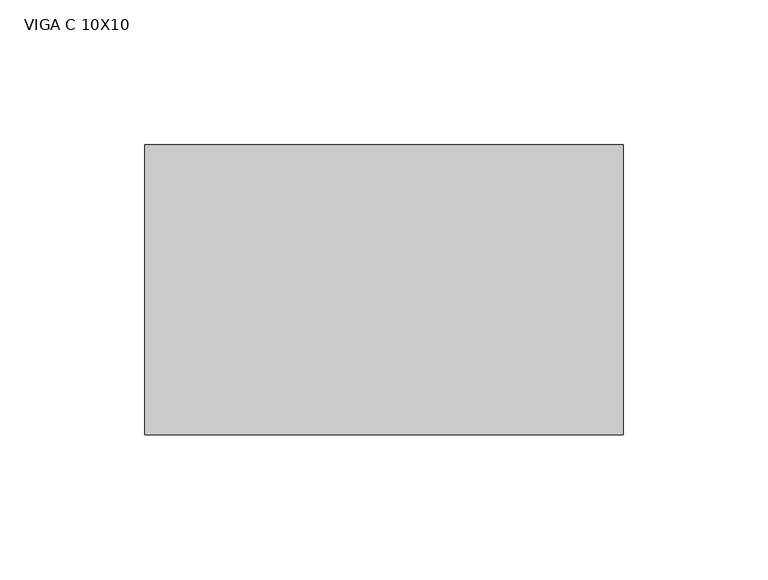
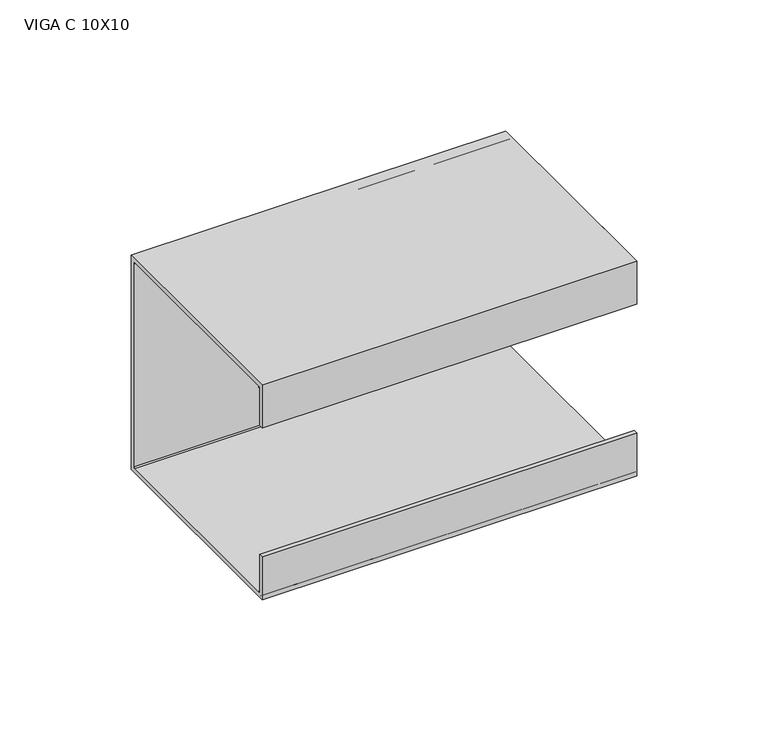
"""IFC4 building model written with IfcOpenShell, lengths in millimetres: beam geometry, VIGA PERFIL C AÇO : VIGA C 10X10."""

from ifc_helpers import new_model, si_unit, point, frame, frame_2d, origin, place, context, project, spatial, polyline, circle_curve, trimmed, segment, composite_curve, outline, extrude, source, transform, mapped, element, save


def viga_c_10x10_df6e70f8(model_context):
    return source(origin(), model_context, "Body", "SweptSolid", [
        extrude(outline(polyline([(9.2, -50.0), (-90.8, -50.0), (-90.8, -30.0), (-88.9, -30.0), (-88.9, -48.1), (7.3, -48.1), (7.3, 48.1), (-88.9, 48.1), (-88.9, 30.0), (-90.8, 30.0), (-90.8, 50.0), (9.2, 50.0), (9.2, -50.0)])), frame((-68.0, 0.0, 0.0), z_axis=(1.0, 0.0, 0.0), x_axis=(0.0, 1.0, 0.0)), (0.0, 0.0, 1.0), 165.0),
        extrude(outline(composite_curve([segment(trimmed(circle_curve(frame_2d((5.4, -46.2)), 3.8), [point((9.2, -46.2))], [point((5.4, -50.0))], False, "CARTESIAN"), True, "CONTINUOUS"), segment(polyline([(5.4, -50.0), (-87.0, -50.0)]), True, "CONTINUOUS"), segment(trimmed(circle_curve(frame_2d((-87.0, -46.2)), 3.8), [point((-87.0, -50.0))], [point((-90.8, -46.2))], False, "CARTESIAN"), True, "CONTINUOUS"), segment(polyline([(-90.8, -46.2), (-90.8, -30.0), (-88.9, -30.0), (-88.9, -46.2)]), True, "CONTINUOUS"), segment(trimmed(circle_curve(frame_2d((-87.0, -46.2)), 1.9), [point((-88.9, -46.2))], [point((-87.0, -48.1))], True, "CARTESIAN"), True, "CONTINUOUS"), segment(polyline([(-87.0, -48.1), (5.4, -48.1)]), True, "CONTINUOUS"), segment(trimmed(circle_curve(frame_2d((5.4, -46.2)), 1.9), [point((5.4, -48.1))], [point((7.3, -46.2))], True, "CARTESIAN"), True, "CONTINUOUS"), segment(polyline([(7.3, -46.2), (7.3, 46.2)]), True, "CONTINUOUS"), segment(trimmed(circle_curve(frame_2d((5.4, 46.2)), 1.9), [point((7.3, 46.2))], [point((5.4, 48.1))], True, "CARTESIAN"), True, "CONTINUOUS"), segment(polyline([(5.4, 48.1), (-87.0, 48.1)]), True, "CONTINUOUS"), segment(trimmed(circle_curve(frame_2d((-87.0, 46.2)), 1.9), [point((-87.0, 48.1))], [point((-88.9, 46.2))], True, "CARTESIAN"), True, "CONTINUOUS"), segment(polyline([(-88.9, 46.2), (-88.9, 30.0), (-90.8, 30.0), (-90.8, 46.2)]), True, "CONTINUOUS"), segment(trimmed(circle_curve(frame_2d((-87.0, 46.2)), 3.8), [point((-90.8, 46.2))], [point((-87.0, 50.0))], False, "CARTESIAN"), True, "CONTINUOUS"), segment(polyline([(-87.0, 50.0), (5.4, 50.0)]), True, "CONTINUOUS"), segment(trimmed(circle_curve(frame_2d((5.4, 46.2)), 3.8), [point((5.4, 50.0))], [point((9.2, 46.2))], False, "CARTESIAN"), True, "CONTINUOUS"), segment(polyline([(9.2, 46.2), (9.2, -46.2)]), True, "CONTINUOUS")], self_intersect=False)), frame((-68.0, 0.0, 0.0), z_axis=(1.0, 0.0, 0.0), x_axis=(0.0, 1.0, 0.0)), (0.0, 0.0, 1.0), 165.0),
    ])


if __name__ == "__main__":
    model = new_model("IFC4")
    model_context = context("Model", 3, world=origin())
    ifc_project = project(units=[si_unit("LENGTHUNIT", "METRE", prefix="MILLI")], contexts=[model_context])
    site = spatial("IfcSite", under=ifc_project)
    building = spatial("IfcBuilding", under=site)
    placement = place(None, origin())
    viga_c_10x10_shape = viga_c_10x10_df6e70f8(model_context)
    element("IfcBeam", 1, ObjectType="VIGA PERFIL C AÇO : VIGA C 10X10", at=placement, inside=building, context=model_context, shape_type="MappedRepresentation", body=[
        mapped(viga_c_10x10_shape, transform((0.0, 0.0, 0.0), x_axis=(1.0, 0.0, 0.0), y_axis=(0.0, 1.0, 0.0), z_axis=(0.0, 0.0, 1.0))),
    ])
    save(model, "model.ifc")
